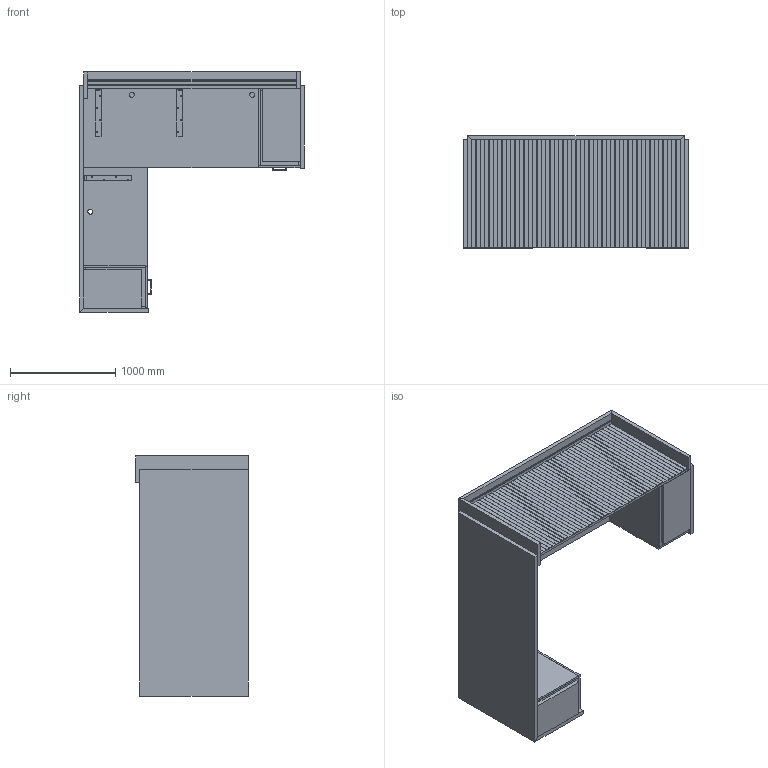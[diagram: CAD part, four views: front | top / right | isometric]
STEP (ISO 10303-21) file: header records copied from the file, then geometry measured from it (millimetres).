
FILE_DESCRIPTION(/* description */ ('','CAx-IF Rec.Pracs.---Representation and Presentation of Product Manufacturing Information (PMI)---4.0---2014-10-13'),/* implementation_level */ '2;1');
FILE_NAME(/* name */ 'RECEPTION_FOUNDATION 1.stp',/* time_stamp */ '2024-12-07T18:49:51-05:00',/* author */ ('mbowman'),/* organization */ (''),/* preprocessor_version */ 'ST-DEVELOPER v19.2',/* originating_system */ 'Autodesk Inventor 2023',/* authorisation */ '');
FILE_SCHEMA (('AP242_MANAGED_MODEL_BASED_3D_ENGINEERING_MIM_LF { 1 0 10303 442 1 1 4 }'));
Length unit declared in the file: inch
Products named in the file (12): FOUNDATION^ADMIN 1_L-SHAPE-SOLID ASSEMBLY; FOUNDATION^ADMIN 1_L-SHAPE-PARTS SOLID; FOUNDATION^ADMIN 1_42x81 STRAIGHT FRONT TRANSACTION-PARTS SOLID; FOUNDATION^PEDESTAL_LETTER BBF 26x24D-SOLID ASSEMBLY; FOUNDATION^PEDESTAL_LETTER BBF 26x24D-PARTS SOLID; FOUNDATION^PEDESTAL_LETTER BBF 26x29.75D-SOLID ASSEMBLY; FOUNDATION^PEDESTAL_LETTER BBF 26x29.75D-PARTS SOLID; SCHWINN 22334 PULL; CANTILEVER BRACKET-10x18; FOUNDATION^PEDESTAL_PLINTH-14.25x27.38; FOUNDATION^PEDESTAL_PLINTH-14.25x21.63; HAFELE^BUS BAR LIGHT_ALUMINUM EXTRUSION-LIGHT BAR (MOD LENGTH 78)
Assembly tree (18 placements, depth 3):
  FOUNDATION^ADMIN 1_L-SHAPE-SOLID ASSEMBLY
    FOUNDATION^ADMIN 1_L-SHAPE-PARTS SOLID
    FOUNDATION^ADMIN 1_42x81 STRAIGHT FRONT TRANSACTION-PARTS SOLID
    FOUNDATION^PEDESTAL_LETTER BBF 26x24D-SOLID ASSEMBLY
      FOUNDATION^PEDESTAL_LETTER BBF 26x24D-PARTS SOLID
      SCHWINN 22334 PULL  x3
    FOUNDATION^PEDESTAL_LETTER BBF 26x29.75D-SOLID ASSEMBLY
      FOUNDATION^PEDESTAL_LETTER BBF 26x29.75D-PARTS SOLID
      SCHWINN 22334 PULL  x3
    CANTILEVER BRACKET-10x18  x3
    FOUNDATION^PEDESTAL_PLINTH-14.25x27.38
    FOUNDATION^PEDESTAL_PLINTH-14.25x21.63
    HAFELE^BUS BAR LIGHT_ALUMINUM EXTRUSION-LIGHT BAR (MOD LENGTH 78)
Bounding box: 2133.6 x 1066.8 x 2279.65 mm (x, y, z)
Volume: 420947885.6 mm3; surface area: 33477163.6 mm2
Topology: 92 solids, 92 shells, 712 faces, 1560 edges, 1032 vertices
Faces by surface type: plane 612, cylinder 74, cone 24, bspline 2
Full cylindrical faces by diameter (mm): 3.683 x12, 6.35 x12, 7 x2, 7.7 x2, 7.938 x9, 48.26 x3
Entity records: 17530 total; most frequent: CARTESIAN_POINT 3363, DIRECTION 2610, ORIENTED_EDGE 2444, EDGE_CURVE 1222, LINE 1160, VECTOR 1160, VERTEX_POINT 814, AXIS2_PLACEMENT_3D 725
